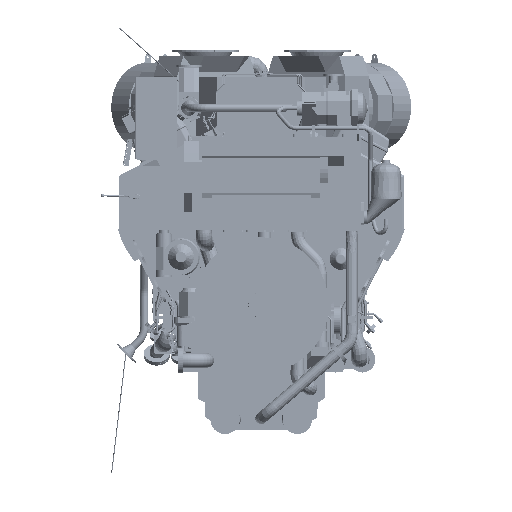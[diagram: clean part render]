
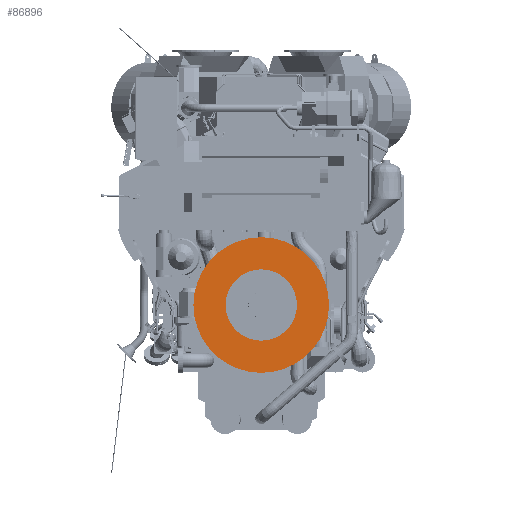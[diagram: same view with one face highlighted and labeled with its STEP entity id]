
A CAD part, left-side view. The second image highlights one B-rep face of the part: STEP entity #86896.
In plain terms, the highlighted planar face has unit normal (-1, 0, 0).
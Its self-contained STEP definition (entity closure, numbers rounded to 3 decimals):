
#77337=PLANE('',#293374);
#86896=ADVANCED_FACE('',(#108996,#108997),#77337,.F.);
#108996=FACE_BOUND('',#118153,.T.);
#108997=FACE_BOUND('',#118154,.T.);
#118153=EDGE_LOOP('',(#140862));
#118154=EDGE_LOOP('',(#140863));
#140862=ORIENTED_EDGE('',*,*,#244667,.T.);
#140863=ORIENTED_EDGE('',*,*,#244665,.F.);
#218482=VERTEX_POINT('',#398634);
#218484=VERTEX_POINT('',#398639);
#244665=EDGE_CURVE('',#218482,#218482,#283476,.T.);
#244667=EDGE_CURVE('',#218484,#218484,#283478,.T.);
#283476=CIRCLE('',#293370,656.);
#283478=CIRCLE('',#293373,345.);
#293370=AXIS2_PLACEMENT_3D('',#398633,#320958,#320959);
#293373=AXIS2_PLACEMENT_3D('',#398638,#320964,#320965);
#293374=AXIS2_PLACEMENT_3D('',#398640,#320966,#320967);
#320958=DIRECTION('',(1.,0.,0.));
#320959=DIRECTION('',(0.,1.,0.));
#320964=DIRECTION('',(1.,0.,0.));
#320965=DIRECTION('',(0.,1.,0.));
#320966=DIRECTION('',(1.,0.,0.));
#320967=DIRECTION('',(0.,0.,-1.));
#398633=CARTESIAN_POINT('',(0.,0.,0.));
#398634=CARTESIAN_POINT('',(0.,656.,0.));
#398638=CARTESIAN_POINT('',(0.,0.,0.));
#398639=CARTESIAN_POINT('',(0.,345.,0.));
#398640=CARTESIAN_POINT('',(0.,0.,0.));
